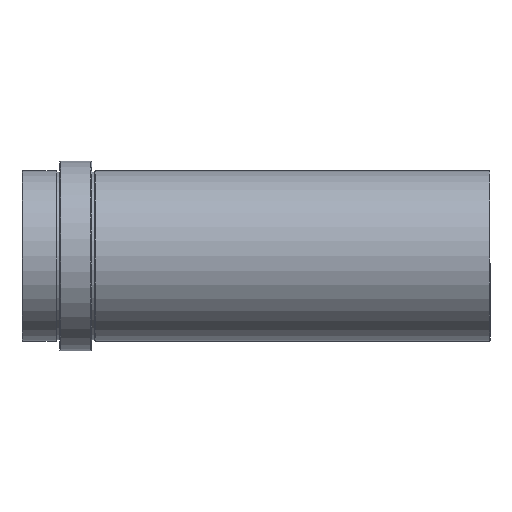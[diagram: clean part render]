
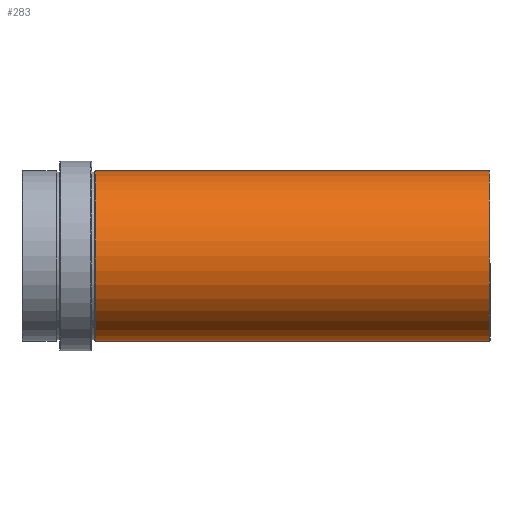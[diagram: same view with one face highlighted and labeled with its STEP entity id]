
A CAD part, top view. The second image highlights one B-rep face of the part: STEP entity #283.
In plain terms, the highlighted cylindrical face has radius 27 mm (diameter 54 mm), a partial arc.
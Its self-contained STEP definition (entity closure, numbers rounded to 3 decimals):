
#1 = CARTESIAN_POINT ( 'NONE',  ( -0.2, -27., 0. ) ) ;
#19 = CARTESIAN_POINT ( 'NONE',  ( -124.8, -27., 0. ) ) ;
#79 = VECTOR ( 'NONE', #638, 1000. ) ;
#81 = VECTOR ( 'NONE', #634, 1000. ) ;
#89 = AXIS2_PLACEMENT_3D ( 'NONE', #681, #680, #679 ) ;
#95 = AXIS2_PLACEMENT_3D ( 'NONE', #707, #704, #703 ) ;
#99 = CIRCLE ( 'NONE', #89, 27. ) ;
#105 = CIRCLE ( 'NONE', #95, 27. ) ;
#148 = AXIS2_PLACEMENT_3D ( 'NONE', #470, #473, #462 ) ;
#222 = EDGE_CURVE ( 'NONE', #807, #889, #105, .T. ) ;
#226 = EDGE_CURVE ( 'NONE', #865, #825, #99, .T. ) ;
#235 = EDGE_CURVE ( 'NONE', #889, #865, #644, .T. ) ;
#236 = EDGE_CURVE ( 'NONE', #807, #825, #637, .T. ) ;
#283 = ADVANCED_FACE ( 'NONE', ( #471 ), #472, .T. ) ;
#316 = CARTESIAN_POINT ( 'NONE',  ( -0.2, 27., 0. ) ) ;
#338 = CARTESIAN_POINT ( 'NONE',  ( -124.8, 27., 0. ) ) ;
#462 = DIRECTION ( 'NONE',  ( 0., 1., 0. ) ) ;
#470 = CARTESIAN_POINT ( 'NONE',  ( 0., 0., 0. ) ) ;
#471 = FACE_OUTER_BOUND ( 'NONE', #789, .T. ) ;
#472 = CYLINDRICAL_SURFACE ( 'NONE', #148, 27. ) ;
#473 = DIRECTION ( 'NONE',  ( 1., 0., 0. ) ) ;
#634 = DIRECTION ( 'NONE',  ( 1., 0., 0. ) ) ;
#635 = CARTESIAN_POINT ( 'NONE',  ( 0., 27., 0. ) ) ;
#637 = LINE ( 'NONE', #635, #81 ) ;
#638 = DIRECTION ( 'NONE',  ( 1., 0., 0. ) ) ;
#639 = ORIENTED_EDGE ( 'NONE', *, *, #226, .T. ) ;
#644 = LINE ( 'NONE', #664, #79 ) ;
#646 = ORIENTED_EDGE ( 'NONE', *, *, #236, .F. ) ;
#664 = CARTESIAN_POINT ( 'NONE',  ( 0., -27., 0. ) ) ;
#679 = DIRECTION ( 'NONE',  ( 0., 1., 0. ) ) ;
#680 = DIRECTION ( 'NONE',  ( -1., 0., 0. ) ) ;
#681 = CARTESIAN_POINT ( 'NONE',  ( -0.2, 0., 0. ) ) ;
#703 = DIRECTION ( 'NONE',  ( 0., -1., 0. ) ) ;
#704 = DIRECTION ( 'NONE',  ( 1., 0., 0. ) ) ;
#707 = CARTESIAN_POINT ( 'NONE',  ( -124.8, 0., 0. ) ) ;
#747 = ORIENTED_EDGE ( 'NONE', *, *, #235, .T. ) ;
#789 = EDGE_LOOP ( 'NONE', ( #805, #747, #639, #646 ) ) ;
#805 = ORIENTED_EDGE ( 'NONE', *, *, #222, .T. ) ;
#807 = VERTEX_POINT ( 'NONE', #338 ) ;
#825 = VERTEX_POINT ( 'NONE', #316 ) ;
#865 = VERTEX_POINT ( 'NONE', #1 ) ;
#889 = VERTEX_POINT ( 'NONE', #19 ) ;
